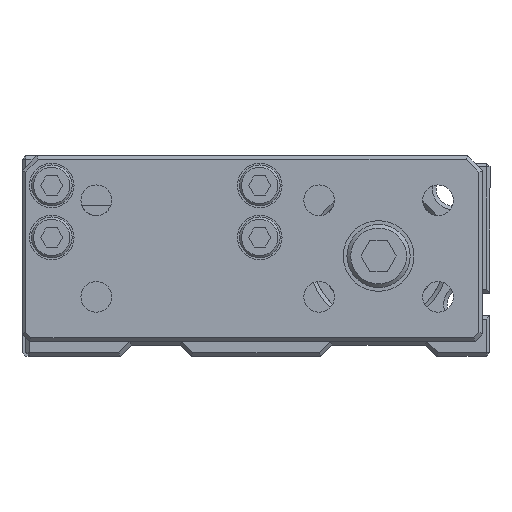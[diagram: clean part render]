
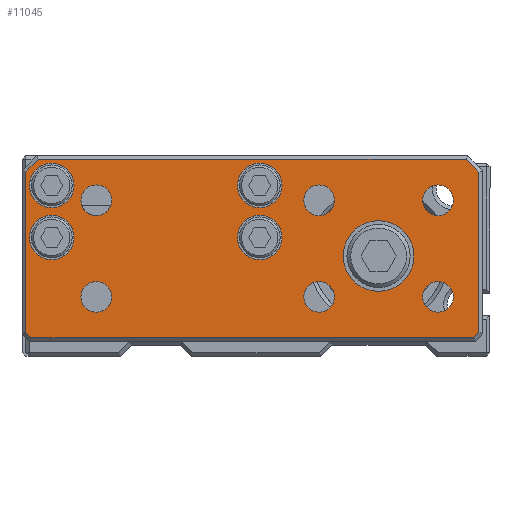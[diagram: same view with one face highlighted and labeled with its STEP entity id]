
A CAD part, front view. The second image highlights one B-rep face of the part: STEP entity #11045.
In plain terms, the highlighted planar face has unit normal (0, -1, 0).
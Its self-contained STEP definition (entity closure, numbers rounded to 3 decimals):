
#10147=CARTESIAN_POINT('',(4.75,-11.8,0.0));
#10148=VERTEX_POINT('',#10147);
#10149=CARTESIAN_POINT('',(0.,-11.8,0.0));
#10150=DIRECTION('',(0.0,1.0,0.0));
#10151=DIRECTION('',(1.0,0.0,0.0));
#10152=AXIS2_PLACEMENT_3D('',#10149,#10150,#10151);
#10153=CIRCLE('',#10152,4.75);
#10154=EDGE_CURVE('',#10148,#10148,#10153,.T.);
#10208=CARTESIAN_POINT('',(-41.0,-11.8,9.5));
#10209=VERTEX_POINT('',#10208);
#10210=CARTESIAN_POINT('',(-44.,-11.8,9.5));
#10211=DIRECTION('',(0.0,1.0,0.0));
#10212=DIRECTION('',(1.0,0.0,0.0));
#10213=AXIS2_PLACEMENT_3D('',#10210,#10211,#10212);
#10214=CIRCLE('',#10213,3.);
#10215=EDGE_CURVE('',#10209,#10209,#10214,.T.);
#10277=CARTESIAN_POINT('',(-41.0,-11.8,2.5));
#10278=VERTEX_POINT('',#10277);
#10279=CARTESIAN_POINT('',(-44.,-11.8,2.5));
#10280=DIRECTION('',(0.0,1.0,0.0));
#10281=DIRECTION('',(1.0,0.0,0.0));
#10282=AXIS2_PLACEMENT_3D('',#10279,#10280,#10281);
#10283=CIRCLE('',#10282,3.);
#10284=EDGE_CURVE('',#10278,#10278,#10283,.T.);
#10346=CARTESIAN_POINT('',(-13.,-11.8,2.5));
#10347=VERTEX_POINT('',#10346);
#10348=CARTESIAN_POINT('',(-16.,-11.8,2.5));
#10349=DIRECTION('',(0.0,1.0,0.0));
#10350=DIRECTION('',(1.0,0.0,0.0));
#10351=AXIS2_PLACEMENT_3D('',#10348,#10349,#10350);
#10352=CIRCLE('',#10351,3.);
#10353=EDGE_CURVE('',#10347,#10347,#10352,.T.);
#10415=CARTESIAN_POINT('',(-13.,-11.8,9.5));
#10416=VERTEX_POINT('',#10415);
#10417=CARTESIAN_POINT('',(-16.,-11.8,9.5));
#10418=DIRECTION('',(0.0,1.0,0.0));
#10419=DIRECTION('',(1.0,0.0,0.0));
#10420=AXIS2_PLACEMENT_3D('',#10417,#10418,#10419);
#10421=CIRCLE('',#10420,3.);
#10422=EDGE_CURVE('',#10416,#10416,#10421,.T.);
#10484=CARTESIAN_POINT('',(10.067,-11.8,7.5));
#10485=VERTEX_POINT('',#10484);
#10486=CARTESIAN_POINT('',(8.,-11.8,7.5));
#10487=DIRECTION('',(0.0,1.0,0.0));
#10488=DIRECTION('',(1.0,0.0,0.0));
#10489=AXIS2_PLACEMENT_3D('',#10486,#10487,#10488);
#10490=CIRCLE('',#10489,2.067);
#10491=EDGE_CURVE('',#10485,#10485,#10490,.T.);
#10533=CARTESIAN_POINT('',(10.067,-11.8,-5.5));
#10534=VERTEX_POINT('',#10533);
#10535=CARTESIAN_POINT('',(8.,-11.8,-5.5));
#10536=DIRECTION('',(0.0,1.0,0.0));
#10537=DIRECTION('',(1.0,0.0,0.0));
#10538=AXIS2_PLACEMENT_3D('',#10535,#10536,#10537);
#10539=CIRCLE('',#10538,2.067);
#10540=EDGE_CURVE('',#10534,#10534,#10539,.T.);
#10582=CARTESIAN_POINT('',(-5.933,-11.8,-5.5));
#10583=VERTEX_POINT('',#10582);
#10584=CARTESIAN_POINT('',(-8.,-11.8,-5.5));
#10585=DIRECTION('',(0.0,1.0,0.0));
#10586=DIRECTION('',(1.0,0.0,0.0));
#10587=AXIS2_PLACEMENT_3D('',#10584,#10585,#10586);
#10588=CIRCLE('',#10587,2.067);
#10589=EDGE_CURVE('',#10583,#10583,#10588,.T.);
#10631=CARTESIAN_POINT('',(-5.933,-11.8,7.5));
#10632=VERTEX_POINT('',#10631);
#10633=CARTESIAN_POINT('',(-8.,-11.8,7.5));
#10634=DIRECTION('',(0.0,1.0,0.0));
#10635=DIRECTION('',(1.0,0.0,0.0));
#10636=AXIS2_PLACEMENT_3D('',#10633,#10634,#10635);
#10637=CIRCLE('',#10636,2.067);
#10638=EDGE_CURVE('',#10632,#10632,#10637,.T.);
#10680=CARTESIAN_POINT('',(-35.933,-11.8,7.5));
#10681=VERTEX_POINT('',#10680);
#10682=CARTESIAN_POINT('',(-38.,-11.8,7.5));
#10683=DIRECTION('',(0.0,1.0,0.0));
#10684=DIRECTION('',(1.0,0.0,0.0));
#10685=AXIS2_PLACEMENT_3D('',#10682,#10683,#10684);
#10686=CIRCLE('',#10685,2.067);
#10687=EDGE_CURVE('',#10681,#10681,#10686,.T.);
#10738=CARTESIAN_POINT('',(-35.933,-11.8,-5.5));
#10739=VERTEX_POINT('',#10738);
#10740=CARTESIAN_POINT('',(-38.,-11.8,-5.5));
#10741=DIRECTION('',(0.0,1.0,0.0));
#10742=DIRECTION('',(1.0,0.0,0.0));
#10743=AXIS2_PLACEMENT_3D('',#10740,#10741,#10742);
#10744=CIRCLE('',#10743,2.067);
#10745=EDGE_CURVE('',#10739,#10739,#10744,.T.);
#10941=CARTESIAN_POINT('',(-48.0,-11.8,13.5));
#10942=DIRECTION('',(0.0,-1.0,0.0));
#10943=DIRECTION('',(0.0,0.0,-1.0));
#10944=AXIS2_PLACEMENT_3D('',#10941,#10942,#10943);
#10945=PLANE('',#10944);
#10946=CARTESIAN_POINT('',(13.5,-11.8,11.293));
#10947=VERTEX_POINT('',#10946);
#10948=CARTESIAN_POINT('',(13.5,-11.8,-10.293));
#10949=VERTEX_POINT('',#10948);
#10950=CARTESIAN_POINT('',(13.5,-11.8,11.293));
#10951=DIRECTION('',(0.0,0.0,-1.0));
#10952=VECTOR('',#10951,21.586);
#10953=LINE('',#10950,#10952);
#10954=EDGE_CURVE('',#10947,#10949,#10953,.T.);
#10955=ORIENTED_EDGE('',*,*,#10954,.F.);
#10956=CARTESIAN_POINT('',(11.793,-11.8,13.));
#10957=VERTEX_POINT('',#10956);
#10958=CARTESIAN_POINT('',(11.793,-11.8,13.));
#10959=DIRECTION('',(0.707,0.0,-0.707));
#10960=VECTOR('',#10959,2.414);
#10961=LINE('',#10958,#10960);
#10962=EDGE_CURVE('',#10957,#10947,#10961,.T.);
#10963=ORIENTED_EDGE('',*,*,#10962,.F.);
#10964=CARTESIAN_POINT('',(-45.793,-11.8,13.0));
#10965=VERTEX_POINT('',#10964);
#10966=CARTESIAN_POINT('',(-45.793,-11.8,13.0));
#10967=DIRECTION('',(1.0,0.0,0.0));
#10968=VECTOR('',#10967,57.586);
#10969=LINE('',#10966,#10968);
#10970=EDGE_CURVE('',#10965,#10957,#10969,.T.);
#10971=ORIENTED_EDGE('',*,*,#10970,.F.);
#10972=CARTESIAN_POINT('',(-47.5,-11.8,11.293));
#10973=VERTEX_POINT('',#10972);
#10974=CARTESIAN_POINT('',(-47.5,-11.8,11.293));
#10975=DIRECTION('',(0.707,0.0,0.707));
#10976=VECTOR('',#10975,2.414);
#10977=LINE('',#10974,#10976);
#10978=EDGE_CURVE('',#10973,#10965,#10977,.T.);
#10979=ORIENTED_EDGE('',*,*,#10978,.F.);
#10980=CARTESIAN_POINT('',(-47.5,-11.8,-10.293));
#10981=VERTEX_POINT('',#10980);
#10982=CARTESIAN_POINT('',(-47.5,-11.8,-10.293));
#10983=DIRECTION('',(0.0,0.0,1.0));
#10984=VECTOR('',#10983,21.586);
#10985=LINE('',#10982,#10984);
#10986=EDGE_CURVE('',#10981,#10973,#10985,.T.);
#10987=ORIENTED_EDGE('',*,*,#10986,.F.);
#10988=CARTESIAN_POINT('',(-46.793,-11.8,-11.0));
#10989=VERTEX_POINT('',#10988);
#10990=CARTESIAN_POINT('',(-46.793,-11.8,-11.0));
#10991=DIRECTION('',(-0.707,0.0,0.707));
#10992=VECTOR('',#10991,1.);
#10993=LINE('',#10990,#10992);
#10994=EDGE_CURVE('',#10989,#10981,#10993,.T.);
#10995=ORIENTED_EDGE('',*,*,#10994,.F.);
#10996=CARTESIAN_POINT('',(12.793,-11.8,-11.0));
#10997=VERTEX_POINT('',#10996);
#10998=CARTESIAN_POINT('',(12.793,-11.8,-11.0));
#10999=DIRECTION('',(-1.0,0.0,0.0));
#11000=VECTOR('',#10999,59.586);
#11001=LINE('',#10998,#11000);
#11002=EDGE_CURVE('',#10997,#10989,#11001,.T.);
#11003=ORIENTED_EDGE('',*,*,#11002,.F.);
#11004=CARTESIAN_POINT('',(13.5,-11.8,-10.293));
#11005=DIRECTION('',(-0.707,0.0,-0.707));
#11006=VECTOR('',#11005,1.);
#11007=LINE('',#11004,#11006);
#11008=EDGE_CURVE('',#10949,#10997,#11007,.T.);
#11009=ORIENTED_EDGE('',*,*,#11008,.F.);
#11010=EDGE_LOOP('',(#10955,#10963,#10971,#10979,#10987,#10995,#11003,#11009));
#11011=FACE_OUTER_BOUND('',#11010,.T.);
#11012=ORIENTED_EDGE('',*,*,#10154,.T.);
#11013=EDGE_LOOP('',(#11012));
#11014=FACE_BOUND('',#11013,.T.);
#11015=ORIENTED_EDGE('',*,*,#10215,.T.);
#11016=EDGE_LOOP('',(#11015));
#11017=FACE_BOUND('',#11016,.T.);
#11018=ORIENTED_EDGE('',*,*,#10284,.T.);
#11019=EDGE_LOOP('',(#11018));
#11020=FACE_BOUND('',#11019,.T.);
#11021=ORIENTED_EDGE('',*,*,#10353,.T.);
#11022=EDGE_LOOP('',(#11021));
#11023=FACE_BOUND('',#11022,.T.);
#11024=ORIENTED_EDGE('',*,*,#10422,.T.);
#11025=EDGE_LOOP('',(#11024));
#11026=FACE_BOUND('',#11025,.T.);
#11027=ORIENTED_EDGE('',*,*,#10491,.T.);
#11028=EDGE_LOOP('',(#11027));
#11029=FACE_BOUND('',#11028,.T.);
#11030=ORIENTED_EDGE('',*,*,#10540,.T.);
#11031=EDGE_LOOP('',(#11030));
#11032=FACE_BOUND('',#11031,.T.);
#11033=ORIENTED_EDGE('',*,*,#10589,.T.);
#11034=EDGE_LOOP('',(#11033));
#11035=FACE_BOUND('',#11034,.T.);
#11036=ORIENTED_EDGE('',*,*,#10638,.T.);
#11037=EDGE_LOOP('',(#11036));
#11038=FACE_BOUND('',#11037,.T.);
#11039=ORIENTED_EDGE('',*,*,#10687,.T.);
#11040=EDGE_LOOP('',(#11039));
#11041=FACE_BOUND('',#11040,.T.);
#11042=ORIENTED_EDGE('',*,*,#10745,.T.);
#11043=EDGE_LOOP('',(#11042));
#11044=FACE_BOUND('',#11043,.T.);
#11045=ADVANCED_FACE('',(#11011,#11014,#11017,#11020,#11023,#11026,#11029,#11032,#11035,#11038,#11041,#11044),#10945,.T.);
